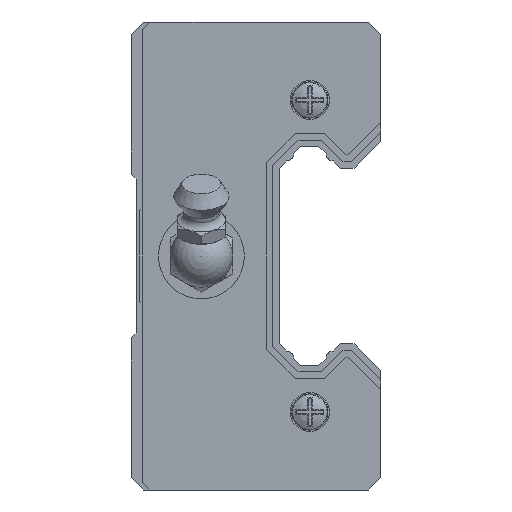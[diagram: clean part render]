
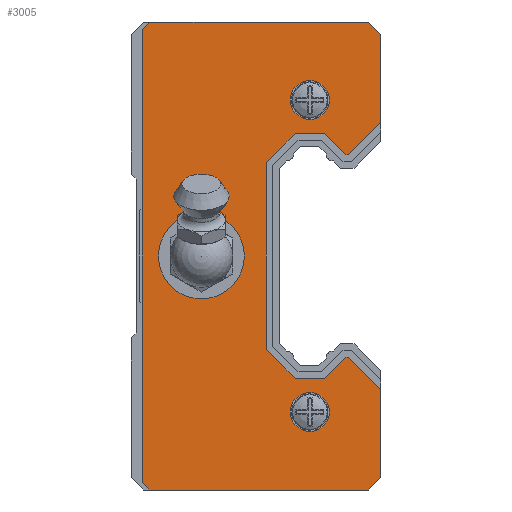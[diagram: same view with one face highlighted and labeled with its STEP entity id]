
A CAD part, left-side view. The second image highlights one B-rep face of the part: STEP entity #3005.
In plain terms, the highlighted planar face has unit normal (-1, 0, 0) as drawn and (1, 0, 0) by its records, which use the part's own axes.
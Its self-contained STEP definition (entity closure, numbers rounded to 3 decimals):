
#2894 = VERTEX_POINT('',#2895);
#2895 = CARTESIAN_POINT('',(3.,10.,17.076));
#2901 = EDGE_CURVE('',#2902,#2894,#2904,.T.);
#2902 = VERTEX_POINT('',#2903);
#2903 = CARTESIAN_POINT('',(3.,10.,28.4));
#2904 = LINE('',#2905,#2906);
#2905 = CARTESIAN_POINT('',(3.,10.,28.4));
#2906 = VECTOR('',#2907,1.);
#2907 = DIRECTION('',(0.,0.,-1.));
#2980 = VERTEX_POINT('',#2981);
#2981 = CARTESIAN_POINT('',(3.,10.,-28.4));
#2987 = EDGE_CURVE('',#2988,#2980,#2990,.T.);
#2988 = VERTEX_POINT('',#2989);
#2989 = CARTESIAN_POINT('',(3.,10.,-17.076));
#2990 = LINE('',#2991,#2992);
#2991 = CARTESIAN_POINT('',(3.,10.,28.4));
#2992 = VECTOR('',#2993,1.);
#2993 = DIRECTION('',(0.,0.,-1.));
#3005 = ADVANCED_FACE('',(#3006,#3150,#3161,#3172),#3183,.T.);
#3006 = FACE_BOUND('',#3007,.T.);
#3007 = EDGE_LOOP('',(#3008,#3016,#3024,#3032,#3040,#3048,#3056,#3064,
    #3072,#3080,#3088,#3094,#3095,#3103,#3111,#3119,#3127,#3135,#3143,
    #3149));
#3008 = ORIENTED_EDGE('',*,*,#3009,.F.);
#3009 = EDGE_CURVE('',#3010,#2894,#3012,.T.);
#3010 = VERTEX_POINT('',#3011);
#3011 = CARTESIAN_POINT('',(3.,14.126,12.95));
#3012 = LINE('',#3013,#3014);
#3013 = CARTESIAN_POINT('',(3.,14.126,12.95));
#3014 = VECTOR('',#3015,1.);
#3015 = DIRECTION('',(0.,-0.707,0.707));
#3016 = ORIENTED_EDGE('',*,*,#3017,.F.);
#3017 = EDGE_CURVE('',#3018,#3010,#3020,.T.);
#3018 = VERTEX_POINT('',#3019);
#3019 = CARTESIAN_POINT('',(3.,14.504,12.95));
#3020 = LINE('',#3021,#3022);
#3021 = CARTESIAN_POINT('',(3.,14.504,12.95));
#3022 = VECTOR('',#3023,1.);
#3023 = DIRECTION('',(0.,-1.,0.));
#3024 = ORIENTED_EDGE('',*,*,#3025,.F.);
#3025 = EDGE_CURVE('',#3026,#3018,#3028,.T.);
#3026 = VERTEX_POINT('',#3027);
#3027 = CARTESIAN_POINT('',(3.,17.234,15.68));
#3028 = LINE('',#3029,#3030);
#3029 = CARTESIAN_POINT('',(3.,17.234,15.68));
#3030 = VECTOR('',#3031,1.);
#3031 = DIRECTION('',(0.,-0.707,-0.707));
#3032 = ORIENTED_EDGE('',*,*,#3033,.F.);
#3033 = EDGE_CURVE('',#3034,#3026,#3036,.T.);
#3034 = VERTEX_POINT('',#3035);
#3035 = CARTESIAN_POINT('',(3.,20.966,15.68));
#3036 = LINE('',#3037,#3038);
#3037 = CARTESIAN_POINT('',(3.,20.966,15.68));
#3038 = VECTOR('',#3039,1.);
#3039 = DIRECTION('',(0.,-1.,0.));
#3040 = ORIENTED_EDGE('',*,*,#3041,.F.);
#3041 = EDGE_CURVE('',#3042,#3034,#3044,.T.);
#3042 = VERTEX_POINT('',#3043);
#3043 = CARTESIAN_POINT('',(3.,24.68,11.966));
#3044 = LINE('',#3045,#3046);
#3045 = CARTESIAN_POINT('',(3.,24.68,11.966));
#3046 = VECTOR('',#3047,1.);
#3047 = DIRECTION('',(0.,-0.707,0.707));
#3048 = ORIENTED_EDGE('',*,*,#3049,.F.);
#3049 = EDGE_CURVE('',#3050,#3042,#3052,.T.);
#3050 = VERTEX_POINT('',#3051);
#3051 = CARTESIAN_POINT('',(3.,24.68,-11.966));
#3052 = LINE('',#3053,#3054);
#3053 = CARTESIAN_POINT('',(3.,24.68,-11.966));
#3054 = VECTOR('',#3055,1.);
#3055 = DIRECTION('',(0.,0.,1.));
#3056 = ORIENTED_EDGE('',*,*,#3057,.F.);
#3057 = EDGE_CURVE('',#3058,#3050,#3060,.T.);
#3058 = VERTEX_POINT('',#3059);
#3059 = CARTESIAN_POINT('',(3.,20.966,-15.68));
#3060 = LINE('',#3061,#3062);
#3061 = CARTESIAN_POINT('',(3.,20.966,-15.68));
#3062 = VECTOR('',#3063,1.);
#3063 = DIRECTION('',(0.,0.707,0.707));
#3064 = ORIENTED_EDGE('',*,*,#3065,.F.);
#3065 = EDGE_CURVE('',#3066,#3058,#3068,.T.);
#3066 = VERTEX_POINT('',#3067);
#3067 = CARTESIAN_POINT('',(3.,17.234,-15.68));
#3068 = LINE('',#3069,#3070);
#3069 = CARTESIAN_POINT('',(3.,17.234,-15.68));
#3070 = VECTOR('',#3071,1.);
#3071 = DIRECTION('',(0.,1.,0.));
#3072 = ORIENTED_EDGE('',*,*,#3073,.F.);
#3073 = EDGE_CURVE('',#3074,#3066,#3076,.T.);
#3074 = VERTEX_POINT('',#3075);
#3075 = CARTESIAN_POINT('',(3.,14.504,-12.95));
#3076 = LINE('',#3077,#3078);
#3077 = CARTESIAN_POINT('',(3.,14.504,-12.95));
#3078 = VECTOR('',#3079,1.);
#3079 = DIRECTION('',(0.,0.707,-0.707));
#3080 = ORIENTED_EDGE('',*,*,#3081,.F.);
#3081 = EDGE_CURVE('',#3082,#3074,#3084,.T.);
#3082 = VERTEX_POINT('',#3083);
#3083 = CARTESIAN_POINT('',(3.,14.126,-12.95));
#3084 = LINE('',#3085,#3086);
#3085 = CARTESIAN_POINT('',(3.,14.126,-12.95));
#3086 = VECTOR('',#3087,1.);
#3087 = DIRECTION('',(0.,1.,0.));
#3088 = ORIENTED_EDGE('',*,*,#3089,.F.);
#3089 = EDGE_CURVE('',#2988,#3082,#3090,.T.);
#3090 = LINE('',#3091,#3092);
#3091 = CARTESIAN_POINT('',(3.,10.,-17.076));
#3092 = VECTOR('',#3093,1.);
#3093 = DIRECTION('',(0.,0.707,0.707));
#3094 = ORIENTED_EDGE('',*,*,#2987,.T.);
#3095 = ORIENTED_EDGE('',*,*,#3096,.T.);
#3096 = EDGE_CURVE('',#2980,#3097,#3099,.T.);
#3097 = VERTEX_POINT('',#3098);
#3098 = CARTESIAN_POINT('',(3.,11.6,-30.));
#3099 = LINE('',#3100,#3101);
#3100 = CARTESIAN_POINT('',(3.,10.,-28.4));
#3101 = VECTOR('',#3102,1.);
#3102 = DIRECTION('',(0.,0.707,-0.707));
#3103 = ORIENTED_EDGE('',*,*,#3104,.T.);
#3104 = EDGE_CURVE('',#3097,#3105,#3107,.T.);
#3105 = VERTEX_POINT('',#3106);
#3106 = CARTESIAN_POINT('',(3.,39.6,-30.));
#3107 = LINE('',#3108,#3109);
#3108 = CARTESIAN_POINT('',(3.,11.6,-30.));
#3109 = VECTOR('',#3110,1.);
#3110 = DIRECTION('',(0.,1.,0.));
#3111 = ORIENTED_EDGE('',*,*,#3112,.T.);
#3112 = EDGE_CURVE('',#3105,#3113,#3115,.T.);
#3113 = VERTEX_POINT('',#3114);
#3114 = CARTESIAN_POINT('',(3.,40.6,-29.));
#3115 = LINE('',#3116,#3117);
#3116 = CARTESIAN_POINT('',(3.,39.6,-30.));
#3117 = VECTOR('',#3118,1.);
#3118 = DIRECTION('',(0.,0.707,0.707));
#3119 = ORIENTED_EDGE('',*,*,#3120,.T.);
#3120 = EDGE_CURVE('',#3113,#3121,#3123,.T.);
#3121 = VERTEX_POINT('',#3122);
#3122 = CARTESIAN_POINT('',(3.,40.6,29.));
#3123 = LINE('',#3124,#3125);
#3124 = CARTESIAN_POINT('',(3.,40.6,-29.));
#3125 = VECTOR('',#3126,1.);
#3126 = DIRECTION('',(0.,0.,1.));
#3127 = ORIENTED_EDGE('',*,*,#3128,.T.);
#3128 = EDGE_CURVE('',#3121,#3129,#3131,.T.);
#3129 = VERTEX_POINT('',#3130);
#3130 = CARTESIAN_POINT('',(3.,39.6,30.));
#3131 = LINE('',#3132,#3133);
#3132 = CARTESIAN_POINT('',(3.,40.6,29.));
#3133 = VECTOR('',#3134,1.);
#3134 = DIRECTION('',(0.,-0.707,0.707));
#3135 = ORIENTED_EDGE('',*,*,#3136,.T.);
#3136 = EDGE_CURVE('',#3129,#3137,#3139,.T.);
#3137 = VERTEX_POINT('',#3138);
#3138 = CARTESIAN_POINT('',(3.,11.6,30.));
#3139 = LINE('',#3140,#3141);
#3140 = CARTESIAN_POINT('',(3.,39.6,30.));
#3141 = VECTOR('',#3142,1.);
#3142 = DIRECTION('',(0.,-1.,0.));
#3143 = ORIENTED_EDGE('',*,*,#3144,.T.);
#3144 = EDGE_CURVE('',#3137,#2902,#3145,.T.);
#3145 = LINE('',#3146,#3147);
#3146 = CARTESIAN_POINT('',(3.,11.6,30.));
#3147 = VECTOR('',#3148,1.);
#3148 = DIRECTION('',(0.,-0.707,-0.707));
#3149 = ORIENTED_EDGE('',*,*,#2901,.T.);
#3150 = FACE_BOUND('',#3151,.T.);
#3151 = EDGE_LOOP('',(#3152));
#3152 = ORIENTED_EDGE('',*,*,#3153,.T.);
#3153 = EDGE_CURVE('',#3154,#3154,#3156,.T.);
#3154 = VERTEX_POINT('',#3155);
#3155 = CARTESIAN_POINT('',(3.,19.1,22.5));
#3156 = CIRCLE('',#3157,2.5);
#3157 = AXIS2_PLACEMENT_3D('',#3158,#3159,#3160);
#3158 = CARTESIAN_POINT('',(3.,19.1,20.));
#3159 = DIRECTION('',(-1.,0.,0.));
#3160 = DIRECTION('',(0.,0.,1.));
#3161 = FACE_BOUND('',#3162,.T.);
#3162 = EDGE_LOOP('',(#3163));
#3163 = ORIENTED_EDGE('',*,*,#3164,.T.);
#3164 = EDGE_CURVE('',#3165,#3165,#3167,.T.);
#3165 = VERTEX_POINT('',#3166);
#3166 = CARTESIAN_POINT('',(3.,19.1,-17.5));
#3167 = CIRCLE('',#3168,2.5);
#3168 = AXIS2_PLACEMENT_3D('',#3169,#3170,#3171);
#3169 = CARTESIAN_POINT('',(3.,19.1,-20.));
#3170 = DIRECTION('',(-1.,0.,0.));
#3171 = DIRECTION('',(0.,0.,1.));
#3172 = FACE_BOUND('',#3173,.T.);
#3173 = EDGE_LOOP('',(#3174));
#3174 = ORIENTED_EDGE('',*,*,#3175,.F.);
#3175 = EDGE_CURVE('',#3176,#3176,#3178,.T.);
#3176 = VERTEX_POINT('',#3177);
#3177 = CARTESIAN_POINT('',(3.,33.,-5.5));
#3178 = CIRCLE('',#3179,5.5);
#3179 = AXIS2_PLACEMENT_3D('',#3180,#3181,#3182);
#3180 = CARTESIAN_POINT('',(3.,33.,0.));
#3181 = DIRECTION('',(1.,0.,0.));
#3182 = DIRECTION('',(0.,0.,-1.));
#3183 = PLANE('',#3184);
#3184 = AXIS2_PLACEMENT_3D('',#3185,#3186,#3187);
#3185 = CARTESIAN_POINT('',(3.,0.,0.));
#3186 = DIRECTION('',(1.,0.,0.));
#3187 = DIRECTION('',(0.,0.,1.));
